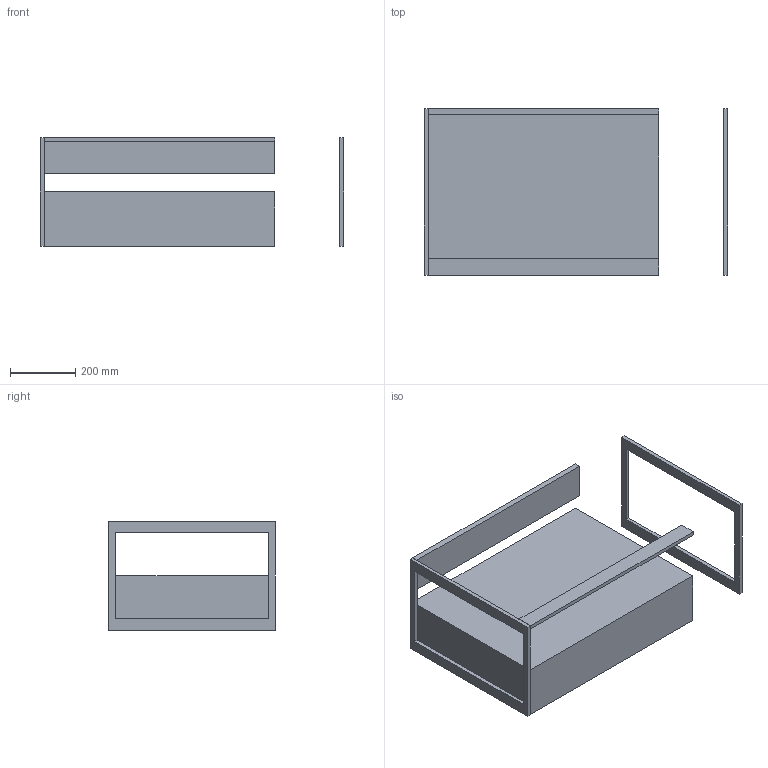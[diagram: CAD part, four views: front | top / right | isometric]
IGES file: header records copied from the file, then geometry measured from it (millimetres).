
Start section: Data from Parasolid IGES Translator 19.0.9, Copyright(c) 2006 Siemens PL M Software. All Rights Reserved.
Global section: file name: noorth-FJ-H 33,5 D 51,2 W 72_6700.igs; native system: By Siemens PLM Incorporated; preprocessor: XPlus GENERIC/IGES 19.0.9; author: Noname; organization: Noname; date: 20200507.120532; units: metre
Bounding box: 932 x 512 x 335 mm (x, y, z)
Volume: 19968757 mm3; surface area: 2794915.5 mm2
Topology: 10 solids, 10 shells, 70 faces, 150 edges, 100 vertices
Faces by surface type: plane 70
